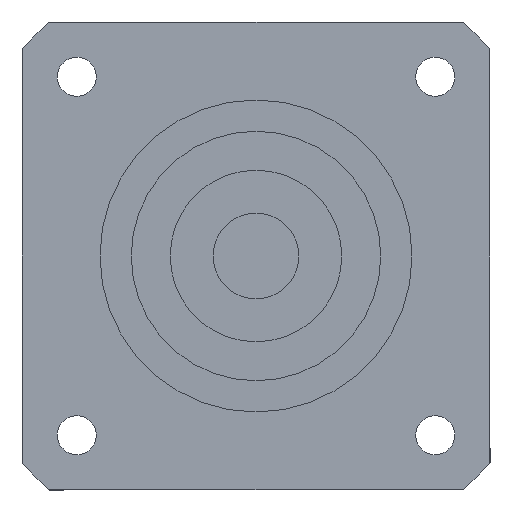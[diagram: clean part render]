
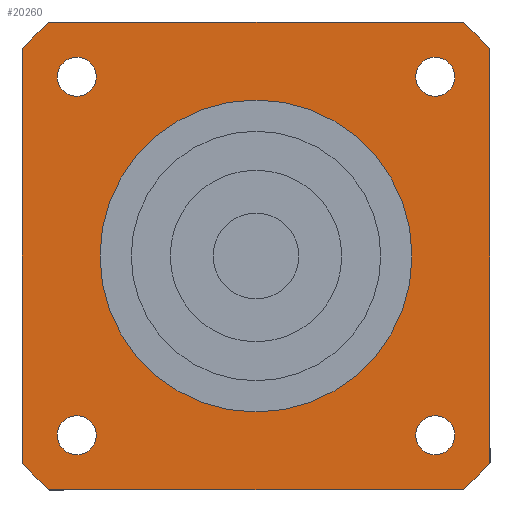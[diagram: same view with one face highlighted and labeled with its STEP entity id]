
A CAD part, left-side view. The second image highlights one B-rep face of the part: STEP entity #20260.
In plain terms, the highlighted planar face has unit normal (-1, 0, 0) as drawn and (0, 0, -1) by its records, which use the part's own axes.
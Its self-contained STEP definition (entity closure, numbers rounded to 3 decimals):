
#11110=CARTESIAN_POINT('',(-30.,-26.458,-58.));
#11120=VERTEX_POINT('',#11110);
#11280=CARTESIAN_POINT('',(-26.458,-30.,-58.));
#11290=VERTEX_POINT('',#11280);
#11320=CARTESIAN_POINT('',(0.,0.,
-58.));
#11330=DIRECTION('',(0.,0.,1.));
#11340=DIRECTION('',(0.,-1.,0.));
#11350=AXIS2_PLACEMENT_3D('',#11320,#11330,#11340);
#11360=CIRCLE('',#11350,40.);
#11370=EDGE_CURVE('',#11120,#11290,#11360,.T.);
#12870=CARTESIAN_POINT('',(-30.,26.458,-58.));
#12880=VERTEX_POINT('',#12870);
#12980=CARTESIAN_POINT('',(-30.,30.,-58.));
#12990=DIRECTION('',(0.,-1.,0.));
#13000=VECTOR('',#12990,1000.);
#13010=LINE('',#12980,#13000);
#13020=EDGE_CURVE('',#12880,#11120,#13010,.T.);
#17850=CARTESIAN_POINT('',(-26.458,30.,-58.));
#17860=VERTEX_POINT('',#17850);
#17910=CARTESIAN_POINT('',(0.,0.,
-58.));
#17920=DIRECTION('',(0.,0.,1.));
#17930=DIRECTION('',(0.,-1.,0.));
#17940=AXIS2_PLACEMENT_3D('',#17910,#17920,#17930);
#17950=CIRCLE('',#17940,40.);
#17960=EDGE_CURVE('',#17860,#12880,#17950,.T.);
#18100=CARTESIAN_POINT('',(26.458,30.,-58.));
#18110=VERTEX_POINT('',#18100);
#18160=CARTESIAN_POINT('',(30.,30.,-58.));
#18170=DIRECTION('',(-1.,0.,0.));
#18180=VECTOR('',#18170,1000.);
#18190=LINE('',#18160,#18180);
#18200=EDGE_CURVE('',#18110,#17860,#18190,.T.);
#18310=CARTESIAN_POINT('',(0.,0.,
-58.));
#18320=DIRECTION('',(0.,0.,1.));
#18330=DIRECTION('',(0.,-1.,0.));
#18340=AXIS2_PLACEMENT_3D('',#18310,#18320,#18330);
#18350=CIRCLE('',#18340,40.);
#18360=CARTESIAN_POINT('',(30.,26.458,-58.));
#18370=VERTEX_POINT('',#18360);
#18380=EDGE_CURVE('',#18370,#18110,#18350,.T.);
#18590=CARTESIAN_POINT('',(30.,-26.458,-58.));
#18600=VERTEX_POINT('',#18590);
#18650=CARTESIAN_POINT('',(30.,-30.,-58.));
#18660=DIRECTION('',(0.,1.,0.));
#18670=VECTOR('',#18660,1000.);
#18680=LINE('',#18650,#18670);
#18690=EDGE_CURVE('',#18600,#18370,#18680,.T.);
#18830=CARTESIAN_POINT('',(26.458,-30.,-58.));
#18840=VERTEX_POINT('',#18830);
#18890=CARTESIAN_POINT('',(0.,0.,
-58.));
#18900=DIRECTION('',(0.,0.,1.));
#18910=DIRECTION('',(0.,-1.,0.));
#18920=AXIS2_PLACEMENT_3D('',#18890,#18900,#18910);
#18930=CIRCLE('',#18920,40.);
#18940=EDGE_CURVE('',#18840,#18600,#18930,.T.);
#19070=CARTESIAN_POINT('',(-30.,-30.,-58.));
#19080=DIRECTION('',(1.,0.,0.));
#19090=VECTOR('',#19080,1000.);
#19100=LINE('',#19070,#19090);
#19110=EDGE_CURVE('',#11290,#18840,#19100,.T.);
#19160=CARTESIAN_POINT('',(-30.,30.,-58.));
#19170=DIRECTION('',(0.,0.,1.));
#19180=DIRECTION('',(-1.,0.,0.));
#19190=AXIS2_PLACEMENT_3D('',#19160,#19170,#19180);
#19200=PLANE('',#19190);
#19210=CARTESIAN_POINT('',(22.981,-22.981,-58.));
#19220=DIRECTION('',(0.,0.,-1.));
#19230=DIRECTION('',(1.,0.,0.));
#19240=AXIS2_PLACEMENT_3D('',#19210,#19220,#19230);
#19250=CIRCLE('',#19240,2.5);
#19260=CARTESIAN_POINT('',(25.481,-22.981,-58.));
#19270=VERTEX_POINT('',#19260);
#19280=CARTESIAN_POINT('',(22.981,-25.481,-58.));
#19290=VERTEX_POINT('',#19280);
#19300=EDGE_CURVE('',#19270,#19290,#19250,.T.);
#19310=ORIENTED_EDGE('',*,*,#19300,.F.);
#19320=CARTESIAN_POINT('',(22.981,-20.481,-58.));
#19330=VERTEX_POINT('',#19320);
#19340=EDGE_CURVE('',#19290,#19330,#19250,.T.);
#19350=ORIENTED_EDGE('',*,*,#19340,.F.);
#19360=EDGE_CURVE('',#19330,#19270,#19250,.T.);
#19370=ORIENTED_EDGE('',*,*,#19360,.F.);
#19380=EDGE_LOOP('',(#19370,#19350,#19310));
#19390=FACE_BOUND('',#19380,.T.);
#19400=CARTESIAN_POINT('',(22.981,22.981,-58.));
#19410=DIRECTION('',(0.,0.,-1.));
#19420=DIRECTION('',(0.,1.,0.));
#19430=AXIS2_PLACEMENT_3D('',#19400,#19410,#19420);
#19440=CIRCLE('',#19430,2.5);
#19450=CARTESIAN_POINT('',(22.981,25.481,-58.));
#19460=VERTEX_POINT('',#19450);
#19470=CARTESIAN_POINT('',(25.481,22.981,-58.));
#19480=VERTEX_POINT('',#19470);
#19490=EDGE_CURVE('',#19460,#19480,#19440,.T.);
#19500=ORIENTED_EDGE('',*,*,#19490,.F.);
#19510=CARTESIAN_POINT('',(20.481,22.981,-58.));
#19520=VERTEX_POINT('',#19510);
#19530=EDGE_CURVE('',#19480,#19520,#19440,.T.);
#19540=ORIENTED_EDGE('',*,*,#19530,.F.);
#19550=EDGE_CURVE('',#19520,#19460,#19440,.T.);
#19560=ORIENTED_EDGE('',*,*,#19550,.F.);
#19570=EDGE_LOOP('',(#19560,#19540,#19500));
#19580=FACE_BOUND('',#19570,.T.);
#19590=CARTESIAN_POINT('',(-22.981,22.981,-58.));
#19600=DIRECTION('',(0.,0.,-1.));
#19610=DIRECTION('',(-1.,0.,0.));
#19620=AXIS2_PLACEMENT_3D('',#19590,#19600,#19610);
#19630=CIRCLE('',#19620,2.5);
#19640=CARTESIAN_POINT('',(-25.481,22.981,-58.));
#19650=VERTEX_POINT('',#19640);
#19660=CARTESIAN_POINT('',(-22.981,25.481,-58.));
#19670=VERTEX_POINT('',#19660);
#19680=EDGE_CURVE('',#19650,#19670,#19630,.T.);
#19690=ORIENTED_EDGE('',*,*,#19680,.F.);
#19700=CARTESIAN_POINT('',(-22.981,20.481,-58.));
#19710=VERTEX_POINT('',#19700);
#19720=EDGE_CURVE('',#19670,#19710,#19630,.T.);
#19730=ORIENTED_EDGE('',*,*,#19720,.F.);
#19740=EDGE_CURVE('',#19710,#19650,#19630,.T.);
#19750=ORIENTED_EDGE('',*,*,#19740,.F.);
#19760=EDGE_LOOP('',(#19750,#19730,#19690));
#19770=FACE_BOUND('',#19760,.T.);
#19780=CARTESIAN_POINT('',(-22.981,-22.981,-58.));
#19790=DIRECTION('',(0.,0.,-1.));
#19800=DIRECTION('',(0.,-1.,0.));
#19810=AXIS2_PLACEMENT_3D('',#19780,#19790,#19800);
#19820=CIRCLE('',#19810,2.5);
#19830=CARTESIAN_POINT('',(-22.981,-25.481,-58.));
#19840=VERTEX_POINT('',#19830);
#19850=CARTESIAN_POINT('',(-25.481,-22.981,-58.));
#19860=VERTEX_POINT('',#19850);
#19870=EDGE_CURVE('',#19840,#19860,#19820,.T.);
#19880=ORIENTED_EDGE('',*,*,#19870,.F.);
#19890=CARTESIAN_POINT('',(-20.481,-22.981,-58.));
#19900=VERTEX_POINT('',#19890);
#19910=EDGE_CURVE('',#19860,#19900,#19820,.T.);
#19920=ORIENTED_EDGE('',*,*,#19910,.F.);
#19930=EDGE_CURVE('',#19900,#19840,#19820,.T.);
#19940=ORIENTED_EDGE('',*,*,#19930,.F.);
#19950=EDGE_LOOP('',(#19940,#19920,#19880));
#19960=FACE_BOUND('',#19950,.T.);
#19970=ORIENTED_EDGE('',*,*,#11370,.F.);
#19980=ORIENTED_EDGE('',*,*,#19110,.F.);
#19990=ORIENTED_EDGE('',*,*,#18940,.F.);
#20000=ORIENTED_EDGE('',*,*,#18690,.F.);
#20010=ORIENTED_EDGE('',*,*,#18380,.F.);
#20020=ORIENTED_EDGE('',*,*,#18200,.F.);
#20030=ORIENTED_EDGE('',*,*,#17960,.F.);
#20040=ORIENTED_EDGE('',*,*,#13020,.F.);
#20050=EDGE_LOOP('',(#20040,#20030,#20020,#20010,#20000,#19990,#19980,
#19970));
#20060=FACE_OUTER_BOUND('',#20050,.T.);
#20070=CARTESIAN_POINT('',(0.,0.,
-58.));
#20080=DIRECTION('',(0.,0.,1.));
#20090=DIRECTION('',(0.,-1.,0.));
#20100=AXIS2_PLACEMENT_3D('',#20070,#20080,#20090);
#20110=CIRCLE('',#20100,20.);
#20120=CARTESIAN_POINT('',(20.,0.,-58.));
#20130=VERTEX_POINT('',#20120);
#20140=CARTESIAN_POINT('',(-20.,0.,-58.));
#20150=VERTEX_POINT('',#20140);
#20160=EDGE_CURVE('',#20130,#20150,#20110,.T.);
#20170=ORIENTED_EDGE('',*,*,#20160,.T.);
#20180=CARTESIAN_POINT('',(0.,-20.,-58.));
#20190=VERTEX_POINT('',#20180);
#20200=EDGE_CURVE('',#20190,#20130,#20110,.T.);
#20210=ORIENTED_EDGE('',*,*,#20200,.T.);
#20220=EDGE_CURVE('',#20150,#20190,#20110,.T.);
#20230=ORIENTED_EDGE('',*,*,#20220,.T.);
#20240=EDGE_LOOP('',(#20230,#20210,#20170));
#20250=FACE_BOUND('',#20240,.T.);
#20260=ADVANCED_FACE('',(#19390,#19580,#19770,#19960,#20060,#20250),
#19200,.F.);
